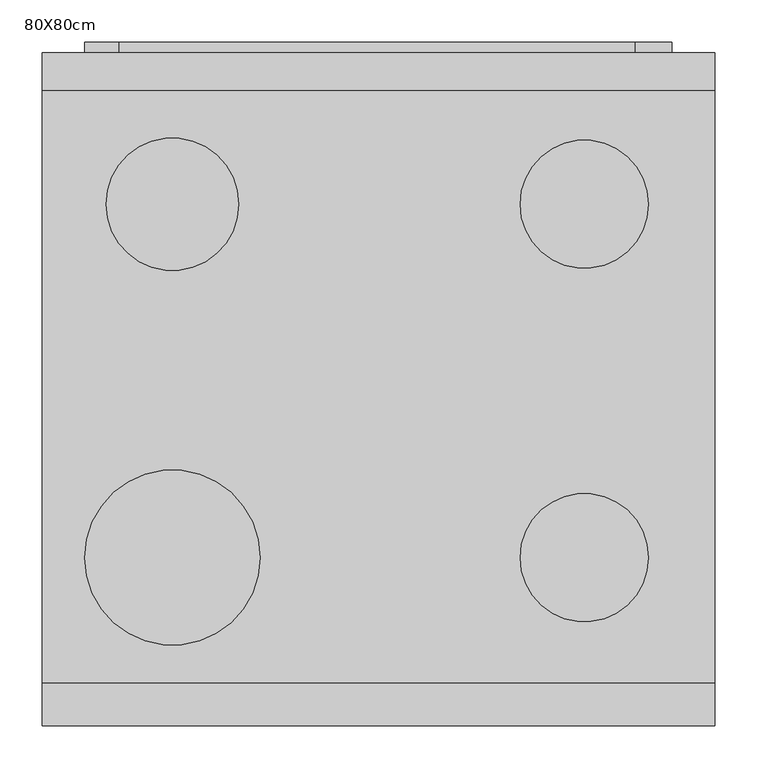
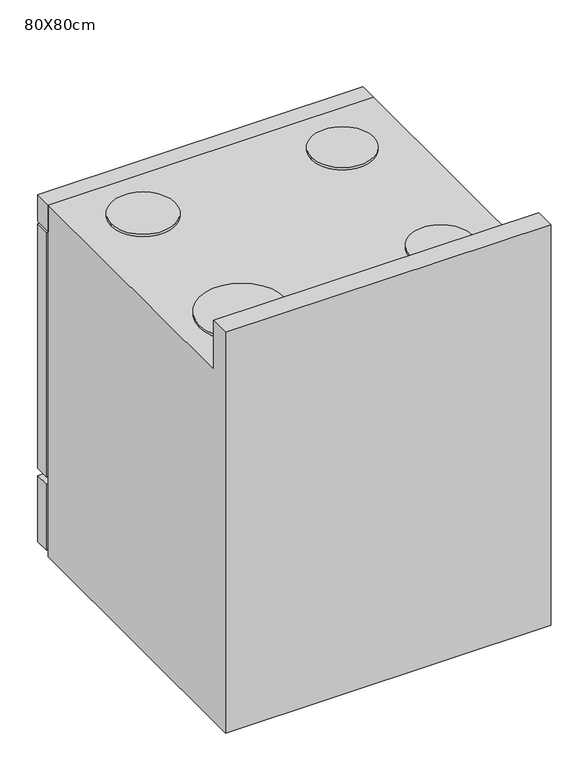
"""IFC4 building model written with IfcOpenShell, lengths in millimetres: proxy geometry, _Produtos_Arq_Bib_M_Extens¦o : 80X80cm."""

from ifc_helpers import new_model, si_unit, point, frame, frame_2d, origin, place, context, project, spatial, polyline, circle_curve, trimmed, segment, composite_curve, outline, extrude, faceted_brep, source, transform, mapped, element, save


def proxy_80x80cm_0c8ef868(model_context):
    return source(origin(), model_context, "Body", "SolidModel", [
        faceted_brep([(800.0, -800.0, 1041.4), (800.0, -800.0, 0.0), (800.0, -45.0, 0.0), (800.0, -45.0, 914.4), (800.0, -749.2, 914.4), (800.0, -749.2, 1041.4), (0.0, -749.2, 914.4), (0.0, -45.0, 914.4), (0.0, -45.0, 0.0), (0.0, -800.0, 0.0), (0.0, -800.0, 1041.4), (0.0, -749.2, 1041.4), (774.6, -45.0, 889.2220355), (25.4, -45.0, 889.2220355), (25.4, -45.0, 254.0), (774.6, -45.0, 254.0), (774.6, -774.6, 889.2220355), (25.4, -774.6, 889.2220355), (25.4, -774.6, 254.0), (774.6, -774.6, 254.0)], [[[0, 1, 2, 3, 4, 5]], [[6, 7, 8, 9, 10, 11]], [[10, 9, 1, 0]], [[5, 11, 10, 0]], [[4, 6, 11, 5]], [[3, 2, 8, 7], [12, 13, 14, 15]], [[9, 8, 2, 1]], [[7, 6, 4, 3]], [[12, 16, 17, 13]], [[13, 17, 18, 14]], [[14, 18, 19, 15]], [[15, 19, 16, 12]], [[16, 19, 18, 17]]]),
        extrude(outline(polyline([(705.325, 12.7), (705.325, 0.0), (91.687309, 0.0), (91.687309, 12.7), (705.325, 12.7)])), frame((0.0, 0.0, 791.2768639), z_axis=(0.0, 0.0, 1.0), x_axis=(1.0, 0.0, 0.0)), (0.0, 0.0, 1.0), 19.05),
        extrude(outline(polyline([(721.2, -12.7), (721.2, -19.05), (76.2, -19.05), (76.2, -12.7), (721.2, -12.7)])), frame((0.0, 0.0, 330.2), z_axis=(0.0, 0.0, 1.0), x_axis=(1.0, 0.0, 0.0)), (0.0, 0.0, 1.0), 406.4),
        extrude(outline(polyline([(800.0, 0.0), (800.0, -45.0), (0.0, -45.0), (0.0, 0.0), (800.0, 0.0)])), frame((0.0, 0.0, 844.7720355), z_axis=(0.0, 0.0, 1.0), x_axis=(1.0, 0.0, 0.0)), (0.0, 0.0, 1.0), 69.6279645),
        extrude(outline(polyline([(762.0, 749.2), (762.0, 50.8), (304.8, 50.8), (304.8, 749.2), (762.0, 749.2)]), holes=[polyline([(736.6, 723.8), (330.2, 723.8), (330.2, 76.2), (736.6, 76.2), (736.6, 723.8)])]), frame((0.0, -25.4, 0.0), z_axis=(0.0, 1.0, 0.0), x_axis=(0.0, 0.0, 1.0)), (0.0, 0.0, 1.0), 38.1),
        extrude(outline(composite_curve([segment(trimmed(circle_curve(frame_2d((155.0, -600.0)), 104.2), [point((50.8, -600.0))], [point((259.2, -600.0))], False, "CARTESIAN"), True, "CONTINUOUS"), segment(trimmed(circle_curve(frame_2d((155.0, -600.0)), 104.2), [point((259.2, -600.0))], [point((50.8, -600.0))], False, "CARTESIAN"), True, "CONTINUOUS")], self_intersect=False)), frame((0.0, 0.0, 914.4), z_axis=(0.0, 0.0, 1.0), x_axis=(1.0, 0.0, 0.0)), (0.0, 0.0, 1.0), 6.35),
        extrude(outline(composite_curve([segment(trimmed(circle_curve(frame_2d((645.0, -600.0)), 76.2), [point((568.8, -600.0))], [point((721.2, -600.0))], False, "CARTESIAN"), True, "CONTINUOUS"), segment(trimmed(circle_curve(frame_2d((645.0, -600.0)), 76.2), [point((721.2, -600.0))], [point((568.8, -600.0))], False, "CARTESIAN"), True, "CONTINUOUS")], self_intersect=False)), frame((0.0, 0.0, 914.4), z_axis=(0.0, 0.0, 1.0), x_axis=(1.0, 0.0, 0.0)), (0.0, 0.0, 1.0), 6.35),
        extrude(outline(composite_curve([segment(trimmed(circle_curve(frame_2d((645.0, -180.0)), 76.2), [point((568.8, -180.0))], [point((721.2, -180.0))], False, "CARTESIAN"), True, "CONTINUOUS"), segment(trimmed(circle_curve(frame_2d((645.0, -180.0)), 76.2), [point((721.2, -180.0))], [point((568.8, -180.0))], False, "CARTESIAN"), True, "CONTINUOUS")], self_intersect=False)), frame((0.0, 0.0, 914.4), z_axis=(0.0, 0.0, 1.0), x_axis=(1.0, 0.0, 0.0)), (0.0, 0.0, 1.0), 6.35),
        extrude(outline(composite_curve([segment(trimmed(circle_curve(frame_2d((155.0, -180.0)), 78.8), [point((76.2, -180.0))], [point((233.8, -180.0))], False, "CARTESIAN"), True, "CONTINUOUS"), segment(trimmed(circle_curve(frame_2d((155.0, -180.0)), 78.8), [point((233.8, -180.0))], [point((76.2, -180.0))], False, "CARTESIAN"), True, "CONTINUOUS")], self_intersect=False)), frame((0.0, 0.0, 914.4), z_axis=(0.0, 0.0, 1.0), x_axis=(1.0, 0.0, 0.0)), (0.0, 0.0, 1.0), 6.35),
        extrude(outline(polyline([(838.4220355, 800.0), (838.4220355, 0.0), (203.2, 0.0), (203.2, 800.0), (838.4220355, 800.0)]), holes=[polyline([(762.0, 749.2), (304.8, 749.2), (304.8, 50.8), (762.0, 50.8), (762.0, 749.2)])]), frame((0.0, -38.1, 0.0), z_axis=(0.0, 1.0, 0.0), x_axis=(0.0, 0.0, 1.0)), (0.0, 0.0, 1.0), 38.1),
        extrude(outline(polyline([(800.0, 0.0), (800.0, -38.1), (0.0, -38.1), (0.0, 0.0), (800.0, 0.0)])), frame((0.0, 0.0, 12.7), z_axis=(0.0, 0.0, 1.0), x_axis=(1.0, 0.0, 0.0)), (0.0, 0.0, 1.0), 171.45),
    ])


if __name__ == "__main__":
    model = new_model("IFC4")
    model_context = context("Model", 3, world=origin())
    ifc_project = project(units=[si_unit("LENGTHUNIT", "METRE", prefix="MILLI")], contexts=[model_context])
    site = spatial("IfcSite", under=ifc_project)
    building = spatial("IfcBuilding", under=site)
    placement = place(None, origin())
    proxy_80x80cm_shape = proxy_80x80cm_0c8ef868(model_context)
    element("IfcBuildingElementProxy", 1, Name="_Produtos_Arq_Bib_M_Extens¦o : 80X80cm", ObjectType="_Produtos_Arq_Bib_M_Extens¦o : 80X80cm", at=placement, inside=building, context=model_context, shape_type="MappedRepresentation", body=[
        mapped(proxy_80x80cm_shape, transform((0.0, 0.0, 0.0), x_axis=(1.0, 0.0, 0.0), y_axis=(0.0, 1.0, 0.0), z_axis=(0.0, 0.0, 1.0))),
    ])
    save(model, "model.ifc")
